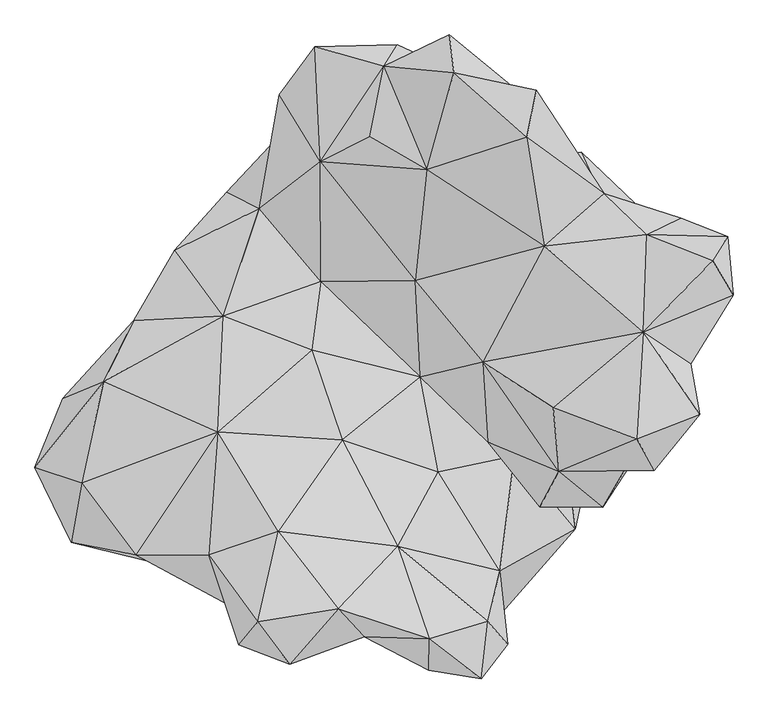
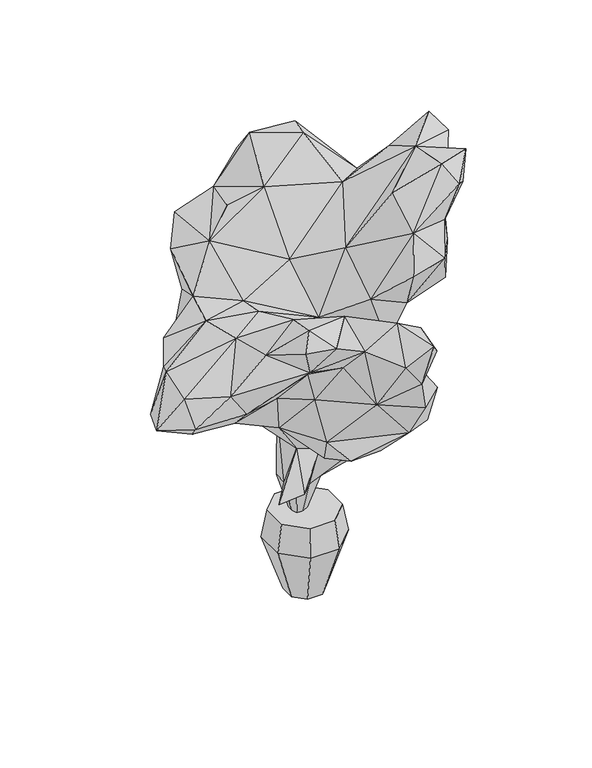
"""IFC4 building model written with IfcOpenShell, lengths in millimetres: geographic element geometry, Enscape AssetDefinition - Potted Plant 028 Peace Lily : Enscape AssetDefinition - Potted Plant 028 Peace Lily."""

from ifc_helpers import new_model, si_unit, origin, place, context, project, spatial, triangles, source, transform, mapped, element, save


def geographic_element_8b343528(model_context):
    return source(origin(), model_context, "Body", "Tessellation", [
        triangles([(-131.0297292, 54.2714693, 364.0454753), (54.2714693, 131.0257324, 364.0454753), (-131.0297292, -54.2754707, 364.0454753), (-0.002, -0.002, 364.3294696), (54.2714693, -131.0297292, 364.0454753), (131.0257324, 54.2714693, 364.0454753), (-62.6453904, 151.2315303, 244.125633), (31.3246959, 75.6232683, 1.5259852), (151.2475267, 62.650391, 244.125633), (62.6403898, 151.2375346, 244.1186385), (131.0257324, -54.2754707, 364.0454753), (151.2615248, -62.6563863, 244.1266322), (75.6232683, 31.3246959, 1.5259852), (62.6553962, -151.2715351, 244.1186385), (75.6232683, -31.3246959, 1.5259852), (-75.6232683, 31.3246959, 1.5259852), (-31.3246959, 75.6232683, 1.5259852), (0.0, 0.0, 1.5259852), (31.3246959, -75.6232683, 1.5259852), (-54.2754707, -131.0297292, 364.0454753), (-62.6603877, -151.2655307, 244.1186385), (-31.3246959, -75.6232683, 1.5259852), (-75.6232683, -31.3246959, 1.5259852), (-151.2555295, -62.650391, 244.125633), (-54.2754707, 131.0257324, 364.0454753), (-151.2415224, 62.6443912, 244.125633), (-285.2782265, -290.2591906, 1134.4000162), (-492.5682263, -419.1869496, 1212.3201874), (-442.780713, -246.7436055, 1049.23988), (-223.2398257, -411.7960127, 1294.2163513), (-138.4366445, -316.6939324, 1092.4043964), (-222.1658542, -193.1811227, 917.6790876), (-97.0200591, -456.3555748, 1308.0772785), (-70.0953218, -570.7084422, 1439.8699608), (-333.5527508, -587.1062785, 1529.8281326), (-289.9451836, -539.0557594, 1401.4032681), (-397.019153, -398.5631358, 1434.0320904), (-550.3766527, -398.195135, 1297.8023243), (-663.339525, -247.5925907, 1235.2129761), (-377.7823185, -140.0646428, 1348.188929), (-685.2623875, -372.5953531, 1179.3895666), (-761.4985771, -215.1159212, 1106.3232416), (-635.0508448, -259.154494, 1072.6926636), (-616.6609789, -34.6956634, 1214.3532028), (-703.0731462, -69.9673227, 1074.71863), (-557.3796046, -88.9001423, 1033.2109892), (-554.3816045, 93.3020993, 1138.6738832), (-387.3122601, -90.1881269, 944.910783), (-487.6852758, 160.7064516, 1021.7740419), (-268.5703982, 104.4419898, 861.1456924), (-291.0191733, 329.1188281, 1224.327158), (-468.4954225, 241.8776416, 1149.9628017), (-358.8555305, 363.5804601, 1032.7240276), (-186.2032056, 308.8429945, 861.7506701), (-366.3674629, 103.1820013, 1275.6545483), (-252.9075461, 476.4584175, 1154.0187315), (-248.522603, 568.519477, 1279.87057), (-33.6486729, 499.9951349, 1153.6878651), (-174.544306, 668.7175398, 1362.2527508), (-160.2324434, 657.4866119, 1270.8057163), (-0.7299929, 672.615485, 1296.3194206), (141.3806236, 607.167118, 1349.6838959), (-29.8087115, 627.2899086, 1451.6948204), (-58.3584291, 479.507323, 1464.3799473), (117.3498593, 614.4590057, 1653.844836), (290.4001704, 577.6173955, 1667.1757084), (108.0949554, 693.5062883, 1541.3849854), (260.6874673, 567.7744643, 1535.7670143), (270.2843924, 478.6183511, 1680.4077496), (61.1584081, 410.5899817, 1548.6169567), (36.5686459, 177.2112762, 1369.6306435), (307.0970255, 249.6935889, 1583.808704), (-163.0304194, 427.6328367, 1371.8666988), (-161.3814467, 175.6522871, 1251.6499088), (-180.9482393, 31.7036926, 1297.2105), (-116.3988726, -157.4944746, 1346.4029915), (-250.487563, -348.6526285, 1514.1562695), (47.2015429, -24.8157591, 1223.8141079), (85.3871663, -224.4898221, 1230.4670448), (243.9866153, -191.0241323, 1145.4968679), (189.1411622, -538.1828113, 1437.7981396), (0.2659974, -380.1753047, 1443.9380264), (-124.5267922, -511.3340504, 1583.2745796), (-226.5898211, -627.7549238, 1543.0329952), (65.6743661, -574.9044434, 1523.5072975), (175.4873081, -658.7596447, 1429.1091351), (65.2673688, -640.8057987, 1359.9507111), (30.8837004, -484.3762845, 1111.5192181), (230.2857438, -585.6982976, 1348.6218967), (155.9334871, -603.383192, 1233.4440434), (219.5568747, -519.279968, 1053.0457523), (183.2142165, -460.1405182, 915.6111179), (372.4633844, -343.6496635, 985.4064943), (213.9699155, -431.6598075, 1216.6832932), (345.3236529, -114.8268846, 963.2396061), (359.3254872, -7.8759228, 1064.5417076), (188.4451654, -161.5614321, 1339.4040001), (391.8431972, 0.103999, 798.7982626), (391.9381768, -63.0423865, 622.7938894), (370.013425, 137.1496772, 917.1451086), (338.2707404, 256.6545376, 953.6187544), (154.7314892, 298.8730907, 955.7827211), (301.9060814, 225.472829, 796.1822886), (374.740353, 390.7572169, 1058.654785), (465.3574963, 226.9187981, 1014.4262346), (499.5651466, 337.8887143, 1121.2711664), (195.5271096, 413.5129864, 1197.1963285), (516.3439553, 160.6964231, 1114.1881685), (475.4464153, 249.4815924, 1263.9407284), (600.9681868, 23.1277762, 1356.1178055), (481.7343309, 14.3878595, 1219.9281532), (298.1521136, -298.1080938, 1486.3105854), (315.0649258, -214.5339073, 1312.7602776), (486.9992712, -203.1340217, 1360.0318108), (659.2436268, 202.3980383, 1525.1163563), (429.7918256, -299.1741079, 1524.45317), (532.1298377, -142.5056185, 1479.4046116), (505.3621038, -87.0871534, 1585.5805435), (337.9877272, -223.4388506, 1625.9572941), (325.9968166, -88.9421365, 1731.6431396), (591.3912641, -153.8944945, 1730.0771015), (481.9113187, -210.5289555, 1631.1941837), (633.2758804, -103.4149994, 1833.1083126), (538.4677503, -220.6218714, 1778.8235447), (501.1901201, -155.2645054, 1843.0260212), (177.9482589, 6.3129385, 1475.7876812), (614.8120365, 2.473976, 1731.5382042), (515.3330069, 69.5213243, 1781.7467674), (622.2459578, 48.4895275, 1549.4648701), (703.6392454, 147.5455634, 1743.9540161), (692.2972778, 269.8083858, 1682.0547421), (522.5929198, 274.4893501, 1658.2569214), (660.5545933, 219.7798807, 1798.3854321), (433.0778169, 360.5734852, 1532.3621349), (593.7992203, 308.612994, 1569.4137978), (384.6422559, 447.397655, 1171.8945299), (312.950956, 335.5057202, 1338.9240875), (221.9198482, 464.3074877, 1373.0606667), (26.7227375, 374.2173471, 1098.099325), (-21.1487954, 388.246251, 977.8294859), (-15.021854, 291.5721555, 834.1418901), (-185.6222091, 415.8769409, 982.9494495), (96.1200686, 218.837896, 685.0513538), (333.374782, 79.3422319, 624.3129101), (-6.4599374, 92.4111108, 504.6621102), (43.2265812, 35.860654, 503.423087), (341.0916801, 29.1587171, 535.6877964), (-53.6974764, 103.1820013, 506.7960643), (-86.4371567, 62.7343884, 504.8370996), (-22.2867824, 28.1467285, 319.4819163), (-42.4005869, 6.2109399, 319.8189234), (-10.0899012, 14.2638607, 319.1779015), (-33.881671, 30.7906987, 320.0059032), (-41.9195933, 20.8617967, 319.5249006), (-88.3981472, 3.0549703, 506.0361179), (-66.8563479, -52.1774974, 504.7820884), (-37.1126375, -7.346929, 319.5109117), (-23.6207716, -7.9529229, 319.6509104), (-14.7308573, 181.1572381, 690.2212418), (-78.846232, -73.2382894, 701.8331783), (-222.6788316, -193.5031234, 568.1004982), (-11.894884, -54.6444707, 505.3521481), (-14.2518622, -132.3467182, 714.3401184), (-136.9596725, -234.8707292, 612.1400339), (140.4106337, -147.3745709, 670.3025448), (-8.172921, -1.125989, 319.4378783), (51.0335083, -26.8347401, 504.4830877), (405.4820449, -188.0791812, 808.558132), (333.4747759, -337.8147363, 847.2537352), (121.5028216, -352.2846016, 789.5943186), (-114.2658905, -364.4604572, 919.2750658), (-40.0776137, -413.6179945, 835.2188593), (-95.6430629, -312.1079842, 808.4361191), (-293.8471438, -538.9927546, 1594.0165112)], [[174, 35, 84], [92, 171, 172], [172, 171, 173], [171, 32, 173], [173, 32, 163], [170, 172, 173], [92, 172, 170], [170, 173, 163], [169, 92, 170], [170, 163, 165], [169, 170, 165], [168, 169, 165], [168, 165, 99], [146, 167, 166], [147, 167, 146], [99, 167, 147], [99, 165, 167], [158, 166, 167], [167, 162, 158], [163, 162, 165], [165, 162, 167], [157, 158, 162], [162, 156, 157], [162, 163, 164], [162, 164, 156], [164, 161, 156], [161, 164, 160], [32, 50, 160], [163, 32, 160], [163, 160, 164], [50, 54, 159], [50, 159, 160], [156, 161, 155], [155, 160, 159], [161, 160, 155], [158, 157, 151], [151, 157, 156], [156, 155, 151], [154, 151, 155], [155, 149, 154], [155, 159, 149], [151, 154, 153], [153, 154, 149], [158, 151, 152], [151, 153, 152], [166, 158, 152], [166, 152, 146], [153, 150, 152], [150, 153, 148], [149, 148, 153], [149, 159, 148], [148, 145, 150], [152, 150, 145], [145, 146, 152], [147, 146, 144], [144, 99, 147], [146, 145, 144], [148, 143, 145], [159, 143, 148], [143, 144, 145], [159, 54, 141], [159, 141, 143], [142, 141, 54], [141, 142, 140], [58, 140, 142], [141, 102, 143], [140, 102, 141], [58, 139, 140], [139, 102, 140], [139, 58, 107], [62, 138, 107], [62, 107, 58], [139, 107, 102], [138, 137, 107], [137, 109, 107], [109, 136, 107], [134, 109, 137], [135, 115, 134], [134, 115, 109], [131, 115, 135], [132, 135, 134], [132, 131, 135], [132, 133, 131], [133, 130, 131], [131, 130, 115], [130, 129, 115], [130, 127, 129], [127, 118, 129], [127, 121, 118], [123, 121, 127], [128, 130, 133], [128, 123, 127], [127, 130, 128], [132, 128, 133], [126, 120, 128], [125, 128, 120], [125, 123, 128], [123, 124, 121], [123, 125, 124], [121, 122, 118], [121, 124, 122], [124, 125, 119], [124, 119, 122], [119, 125, 120], [120, 126, 119], [97, 126, 78], [119, 126, 97], [112, 119, 97], [112, 116, 119], [116, 122, 119], [118, 122, 117], [122, 116, 117], [118, 117, 129], [129, 110, 115], [115, 110, 109], [129, 117, 110], [117, 116, 114], [110, 117, 114], [116, 113, 114], [116, 112, 113], [112, 97, 113], [114, 113, 111], [110, 114, 111], [109, 110, 111], [111, 113, 96], [111, 96, 108], [109, 111, 108], [109, 108, 106], [136, 109, 106], [136, 106, 104], [107, 136, 104], [107, 104, 102], [106, 108, 105], [108, 96, 105], [106, 105, 104], [102, 104, 101], [101, 104, 105], [103, 144, 143], [102, 101, 103], [102, 103, 143], [101, 100, 103], [105, 100, 101], [96, 100, 105], [98, 168, 99], [98, 99, 144], [98, 144, 103], [100, 98, 103], [100, 96, 98], [96, 95, 98], [95, 168, 98], [96, 80, 95], [97, 78, 80], [113, 97, 80], [113, 80, 96], [93, 169, 168], [93, 92, 169], [95, 93, 168], [80, 93, 95], [80, 94, 93], [91, 93, 94], [93, 91, 92], [88, 171, 92], [91, 88, 92], [94, 90, 91], [94, 89, 90], [90, 88, 91], [87, 88, 90], [87, 34, 88], [86, 87, 90], [89, 86, 90], [81, 86, 89], [94, 81, 89], [86, 85, 87], [85, 34, 87], [85, 86, 81], [84, 83, 174], [34, 83, 84], [34, 85, 83], [174, 83, 77], [83, 85, 82], [85, 81, 82], [83, 82, 77], [81, 94, 82], [79, 94, 80], [79, 80, 78], [82, 94, 79], [76, 40, 77], [76, 79, 78], [77, 82, 76], [76, 82, 79], [40, 75, 55], [40, 76, 75], [75, 76, 78], [55, 75, 74], [75, 78, 74], [126, 71, 78], [71, 73, 74], [71, 74, 78], [70, 64, 73], [71, 70, 73], [72, 71, 126], [128, 132, 72], [72, 132, 134], [70, 71, 72], [126, 128, 72], [72, 69, 70], [134, 69, 72], [66, 69, 134], [66, 134, 68], [137, 138, 68], [68, 138, 62], [134, 137, 68], [67, 68, 62], [65, 66, 68], [65, 69, 66], [70, 69, 65], [65, 68, 67], [70, 63, 64], [73, 64, 63], [63, 67, 62], [65, 67, 63], [70, 65, 63], [61, 62, 58], [63, 62, 61], [63, 61, 59], [59, 73, 63], [59, 61, 60], [61, 58, 60], [59, 60, 57], [73, 59, 57], [56, 57, 60], [56, 58, 142], [58, 56, 60], [51, 57, 56], [73, 51, 74], [55, 74, 51], [73, 57, 51], [51, 56, 53], [50, 53, 54], [56, 142, 53], [53, 142, 54], [52, 55, 51], [51, 53, 52], [55, 52, 47], [47, 52, 49], [52, 53, 49], [50, 49, 53], [32, 48, 50], [48, 49, 50], [29, 48, 32], [48, 29, 46], [46, 47, 49], [46, 49, 48], [46, 45, 47], [44, 47, 45], [44, 55, 47], [40, 55, 44], [44, 45, 42], [43, 46, 29], [43, 45, 46], [43, 42, 45], [28, 43, 29], [28, 41, 43], [41, 42, 43], [39, 44, 42], [41, 39, 42], [39, 40, 44], [38, 39, 41], [38, 41, 28], [38, 40, 39], [174, 37, 35], [37, 174, 77], [38, 37, 40], [77, 40, 37], [84, 35, 36], [34, 84, 36], [35, 37, 36], [36, 38, 28], [36, 37, 38], [34, 33, 88], [34, 36, 33], [36, 30, 33], [36, 28, 30], [33, 31, 88], [88, 31, 171], [31, 32, 171], [33, 30, 31], [30, 27, 31], [30, 28, 27], [27, 28, 29], [27, 32, 31], [27, 29, 32], [24, 3, 1], [25, 7, 26], [26, 1, 25], [1, 26, 24], [16, 26, 7], [23, 24, 26], [26, 16, 23], [24, 23, 22], [22, 21, 24], [3, 24, 21], [21, 20, 3], [20, 21, 14], [14, 5, 20], [19, 14, 21], [21, 22, 19], [19, 22, 18], [22, 23, 18], [15, 19, 18], [23, 16, 18], [16, 17, 18], [7, 17, 16], [17, 8, 18], [13, 15, 18], [8, 13, 18], [12, 14, 19], [19, 15, 12], [12, 15, 13], [5, 14, 12], [12, 11, 5], [9, 13, 8], [13, 9, 12], [11, 12, 9], [17, 7, 10], [10, 8, 17], [8, 10, 9], [2, 10, 7], [7, 25, 2], [9, 6, 11], [6, 9, 10], [10, 2, 6], [4, 11, 6], [4, 20, 5], [4, 2, 25], [4, 3, 20], [11, 4, 5], [4, 1, 3], [4, 6, 2], [4, 25, 1]]),
    ])


if __name__ == "__main__":
    model = new_model("IFC4")
    model_context = context("Model", 3, world=origin())
    ifc_project = project(units=[si_unit("LENGTHUNIT", "METRE", prefix="MILLI")], contexts=[model_context])
    site = spatial("IfcSite", under=ifc_project)
    building = spatial("IfcBuilding", under=site)
    placement = place(None, origin())
    geographic_element_shape = geographic_element_8b343528(model_context)
    element("IfcGeographicElement", 1, ObjectType="Enscape AssetDefinition - Potted Plant 028 Peace Lily : Enscape AssetDefinition - Potted Plant 028 Peace Lily", at=placement, inside=building, context=model_context, shape_type="MappedRepresentation", body=[
        mapped(geographic_element_shape, transform((0.0, 0.0, 0.0), x_axis=(1.0, 0.0, 0.0), y_axis=(0.0, 1.0, 0.0), z_axis=(0.0, 0.0, 1.0))),
    ])
    save(model, "model.ifc")
